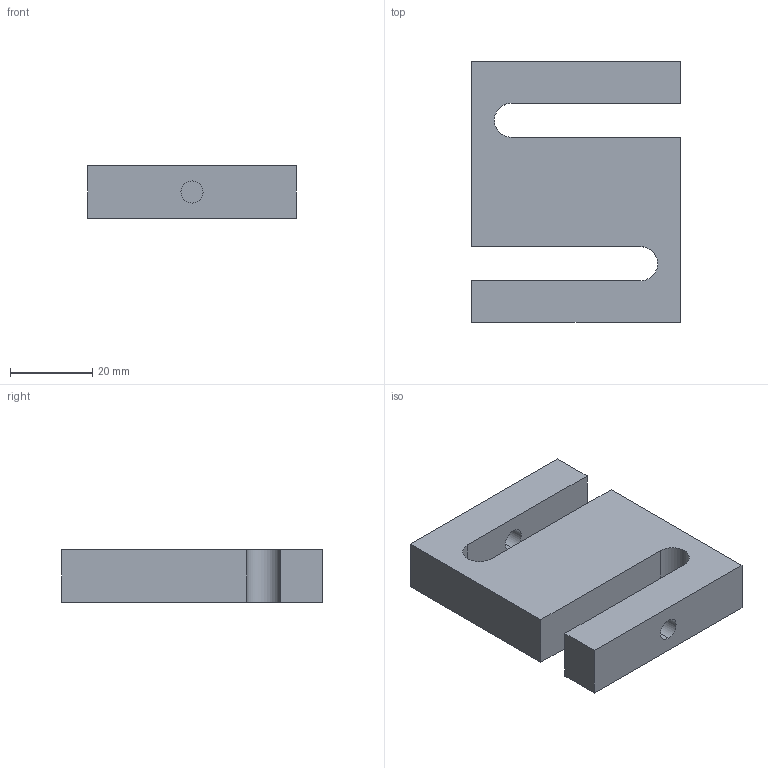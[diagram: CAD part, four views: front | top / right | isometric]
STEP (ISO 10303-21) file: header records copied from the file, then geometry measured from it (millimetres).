
FILE_DESCRIPTION (( 'STEP AP203' ), '1' );
FILE_NAME ('ras1-25 lb to 200 lb.STEP', '2018-03-30T05:05:00', ( '' ), ( '' ), 'SwSTEP 2.0', 'SolidWorks 2016', '' );
FILE_SCHEMA (( 'CONFIG_CONTROL_DESIGN' ));
Length unit declared in the file: inch
Products named in the file (1): ras1-25 lb to 200 lb
Bounding box: 50.8 x 63.5 x 12.7 mm (x, y, z)
Volume: 31193 mm3; surface area: 10352.5 mm2
Topology: 1 solids, 1 shells, 19 faces, 51 edges, 34 vertices
Faces by surface type: plane 12, cylinder 7
Entity records: 686 total; most frequent: DIRECTION 105, CARTESIAN_POINT 105, ORIENTED_EDGE 102, EDGE_CURVE 51, LINE 37, VECTOR 37, VERTEX_POINT 34, AXIS2_PLACEMENT_3D 34
